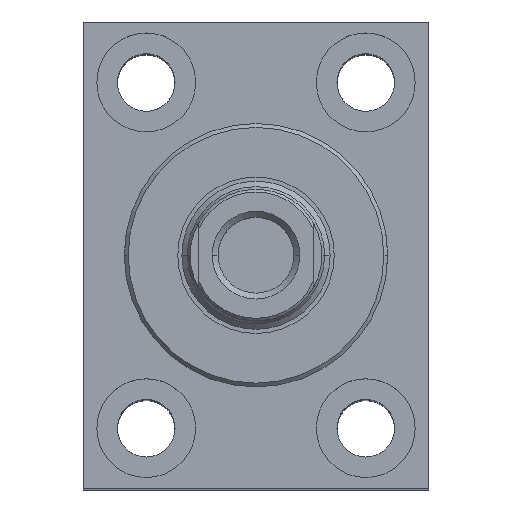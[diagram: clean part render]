
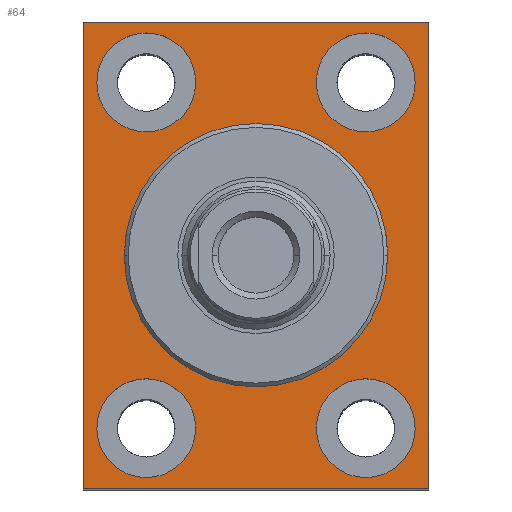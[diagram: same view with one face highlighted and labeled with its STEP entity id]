
A CAD part, top view. The second image highlights one B-rep face of the part: STEP entity #64.
In plain terms, the highlighted planar face has unit normal (0, 0, 1).
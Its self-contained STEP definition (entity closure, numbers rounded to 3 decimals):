
#11 = AXIS2_PLACEMENT_3D ( 'NONE', #3268, #7664, #226 ) ;
#64 = ADVANCED_FACE ( 'NONE', ( #4621, #7730, #331, #1051, #4015, #4657 ), #7109, .T. ) ;
#159 = ORIENTED_EDGE ( 'NONE', *, *, #6897, .T. ) ;
#179 = DIRECTION ( 'NONE',  ( 0., 0., -1. ) ) ;
#226 = DIRECTION ( 'NONE',  ( -1., 0., 0. ) ) ;
#250 = VERTEX_POINT ( 'NONE', #1674 ) ;
#254 = CARTESIAN_POINT ( 'NONE',  ( 0., 0., -10. ) ) ;
#255 = VERTEX_POINT ( 'NONE', #1102 ) ;
#331 = FACE_BOUND ( 'NONE', #974, .T. ) ;
#365 = CIRCLE ( 'NONE', #5877, 9. ) ;
#547 = DIRECTION ( 'NONE',  ( -1., 0., 0. ) ) ;
#551 = EDGE_CURVE ( 'NONE', #5105, #4782, #5187, .T. ) ;
#590 = CIRCLE ( 'NONE', #4926, 24.001 ) ;
#652 = CARTESIAN_POINT ( 'NONE',  ( 20., 31.5, -10. ) ) ;
#689 = CARTESIAN_POINT ( 'NONE',  ( -20., 31.5, -10. ) ) ;
#809 = ORIENTED_EDGE ( 'NONE', *, *, #7204, .T. ) ;
#854 = EDGE_LOOP ( 'NONE', ( #3528, #4538 ) ) ;
#906 = VERTEX_POINT ( 'NONE', #3302 ) ;
#908 = AXIS2_PLACEMENT_3D ( 'NONE', #652, #7257, #6667 ) ;
#974 = EDGE_LOOP ( 'NONE', ( #7054, #5970 ) ) ;
#1051 = FACE_BOUND ( 'NONE', #6623, .T. ) ;
#1100 = ORIENTED_EDGE ( 'NONE', *, *, #1459, .T. ) ;
#1102 = CARTESIAN_POINT ( 'NONE',  ( -24.001, 0., -10. ) ) ;
#1459 = EDGE_CURVE ( 'NONE', #4433, #255, #590, .T. ) ;
#1541 = CIRCLE ( 'NONE', #3838, 24.001 ) ;
#1557 = VECTOR ( 'NONE', #6429, 1000. ) ;
#1645 = AXIS2_PLACEMENT_3D ( 'NONE', #4900, #6038, #547 ) ;
#1650 = CARTESIAN_POINT ( 'NONE',  ( 31.5, 42.5, -10. ) ) ;
#1674 = CARTESIAN_POINT ( 'NONE',  ( -11., -31.5, -10. ) ) ;
#1749 = VERTEX_POINT ( 'NONE', #6057 ) ;
#1809 = EDGE_CURVE ( 'NONE', #1749, #6041, #5331, .T. ) ;
#1997 = CARTESIAN_POINT ( 'NONE',  ( -20., 31.5, -10. ) ) ;
#2009 = VERTEX_POINT ( 'NONE', #4598 ) ;
#2144 = CIRCLE ( 'NONE', #5213, 9. ) ;
#2251 = ORIENTED_EDGE ( 'NONE', *, *, #5848, .T. ) ;
#2291 = CARTESIAN_POINT ( 'NONE',  ( 0., 0., -10. ) ) ;
#2302 = CIRCLE ( 'NONE', #908, 9. ) ;
#2363 = DIRECTION ( 'NONE',  ( -1., 0., 0. ) ) ;
#2385 = CIRCLE ( 'NONE', #6875, 9. ) ;
#2526 = ORIENTED_EDGE ( 'NONE', *, *, #6705, .T. ) ;
#2531 = VECTOR ( 'NONE', #6244, 1000. ) ;
#2533 = EDGE_CURVE ( 'NONE', #906, #5018, #2385, .T. ) ;
#2619 = DIRECTION ( 'NONE',  ( -1., 0., 0. ) ) ;
#2820 = DIRECTION ( 'NONE',  ( 1., 0., 0. ) ) ;
#2855 = EDGE_CURVE ( 'NONE', #4952, #250, #4360, .T. ) ;
#2895 = DIRECTION ( 'NONE',  ( 0., 0., 1. ) ) ;
#2899 = CARTESIAN_POINT ( 'NONE',  ( 31.5, -42.5, -10. ) ) ;
#2965 = VERTEX_POINT ( 'NONE', #2899 ) ;
#3151 = ORIENTED_EDGE ( 'NONE', *, *, #2533, .T. ) ;
#3206 = DIRECTION ( 'NONE',  ( 0., 0., -1. ) ) ;
#3258 = CARTESIAN_POINT ( 'NONE',  ( -31.5, -42.5, -10. ) ) ;
#3268 = CARTESIAN_POINT ( 'NONE',  ( -20., -31.5, -10. ) ) ;
#3296 = EDGE_CURVE ( 'NONE', #4782, #2965, #6342, .T. ) ;
#3302 = CARTESIAN_POINT ( 'NONE',  ( 11., -31.5, -10. ) ) ;
#3351 = CARTESIAN_POINT ( 'NONE',  ( -29., -31.5, -10. ) ) ;
#3365 = CARTESIAN_POINT ( 'NONE',  ( 29., 31.5, -10. ) ) ;
#3483 = DIRECTION ( 'NONE',  ( -1., 0., 0. ) ) ;
#3528 = ORIENTED_EDGE ( 'NONE', *, *, #2855, .T. ) ;
#3815 = CIRCLE ( 'NONE', #1645, 9. ) ;
#3829 = CARTESIAN_POINT ( 'NONE',  ( 31.5, -42.5, -10. ) ) ;
#3838 = AXIS2_PLACEMENT_3D ( 'NONE', #254, #179, #2619 ) ;
#3921 = ORIENTED_EDGE ( 'NONE', *, *, #1809, .T. ) ;
#3935 = EDGE_CURVE ( 'NONE', #2009, #5949, #2302, .T. ) ;
#4015 = FACE_BOUND ( 'NONE', #854, .T. ) ;
#4183 = DIRECTION ( 'NONE',  ( -1., 0., 0. ) ) ;
#4229 = CARTESIAN_POINT ( 'NONE',  ( 31.5, 42.5, -10. ) ) ;
#4240 = CARTESIAN_POINT ( 'NONE',  ( -11., 31.5, -10. ) ) ;
#4360 = CIRCLE ( 'NONE', #11, 9. ) ;
#4390 = EDGE_LOOP ( 'NONE', ( #3921, #159 ) ) ;
#4433 = VERTEX_POINT ( 'NONE', #5521 ) ;
#4492 = DIRECTION ( 'NONE',  ( -1., 0., 0. ) ) ;
#4538 = ORIENTED_EDGE ( 'NONE', *, *, #7557, .T. ) ;
#4598 = CARTESIAN_POINT ( 'NONE',  ( 11., 31.5, -10. ) ) ;
#4621 = FACE_BOUND ( 'NONE', #4759, .T. ) ;
#4657 = FACE_OUTER_BOUND ( 'NONE', #7662, .T. ) ;
#4759 = EDGE_LOOP ( 'NONE', ( #2526, #1100 ) ) ;
#4782 = VERTEX_POINT ( 'NONE', #4820 ) ;
#4786 = CARTESIAN_POINT ( 'NONE',  ( 20., -31.5, -10. ) ) ;
#4820 = CARTESIAN_POINT ( 'NONE',  ( -31.5, -42.5, -10. ) ) ;
#4897 = EDGE_CURVE ( 'NONE', #6748, #5105, #7272, .T. ) ;
#4900 = CARTESIAN_POINT ( 'NONE',  ( -20., -31.5, -10. ) ) ;
#4926 = AXIS2_PLACEMENT_3D ( 'NONE', #5086, #7532, #4492 ) ;
#4952 = VERTEX_POINT ( 'NONE', #3351 ) ;
#4963 = DIRECTION ( 'NONE',  ( 0., 0., -1. ) ) ;
#5018 = VERTEX_POINT ( 'NONE', #6954 ) ;
#5086 = CARTESIAN_POINT ( 'NONE',  ( 0., 0., -10. ) ) ;
#5105 = VERTEX_POINT ( 'NONE', #6439 ) ;
#5121 = CIRCLE ( 'NONE', #7423, 9. ) ;
#5187 = LINE ( 'NONE', #5272, #6644 ) ;
#5195 = AXIS2_PLACEMENT_3D ( 'NONE', #1997, #3206, #7081 ) ;
#5213 = AXIS2_PLACEMENT_3D ( 'NONE', #689, #4963, #2363 ) ;
#5272 = CARTESIAN_POINT ( 'NONE',  ( -31.5, 42.5, -10. ) ) ;
#5331 = CIRCLE ( 'NONE', #5195, 9. ) ;
#5437 = DIRECTION ( 'NONE',  ( 0., 0., -1. ) ) ;
#5505 = CARTESIAN_POINT ( 'NONE',  ( 20., 31.5, -10. ) ) ;
#5521 = CARTESIAN_POINT ( 'NONE',  ( 24.001, 0., -10. ) ) ;
#5712 = DIRECTION ( 'NONE',  ( 0., -1., 0. ) ) ;
#5848 = EDGE_CURVE ( 'NONE', #5018, #906, #365, .T. ) ;
#5849 = CARTESIAN_POINT ( 'NONE',  ( 20., -31.5, -10. ) ) ;
#5875 = AXIS2_PLACEMENT_3D ( 'NONE', #2291, #2895, #2820 ) ;
#5877 = AXIS2_PLACEMENT_3D ( 'NONE', #5849, #7009, #3483 ) ;
#5949 = VERTEX_POINT ( 'NONE', #3365 ) ;
#5970 = ORIENTED_EDGE ( 'NONE', *, *, #6500, .T. ) ;
#6038 = DIRECTION ( 'NONE',  ( 0., 0., -1. ) ) ;
#6041 = VERTEX_POINT ( 'NONE', #4240 ) ;
#6057 = CARTESIAN_POINT ( 'NONE',  ( -29., 31.5, -10. ) ) ;
#6155 = DIRECTION ( 'NONE',  ( 0., 0., -1. ) ) ;
#6172 = VECTOR ( 'NONE', #6682, 1000. ) ;
#6244 = DIRECTION ( 'NONE',  ( 0., 1., 0. ) ) ;
#6342 = LINE ( 'NONE', #3258, #1557 ) ;
#6358 = LINE ( 'NONE', #3829, #2531 ) ;
#6429 = DIRECTION ( 'NONE',  ( 1., 0., 0. ) ) ;
#6439 = CARTESIAN_POINT ( 'NONE',  ( -31.5, 42.5, -10. ) ) ;
#6500 = EDGE_CURVE ( 'NONE', #5949, #2009, #5121, .T. ) ;
#6623 = EDGE_LOOP ( 'NONE', ( #3151, #2251 ) ) ;
#6644 = VECTOR ( 'NONE', #5712, 1000. ) ;
#6667 = DIRECTION ( 'NONE',  ( -1., 0., 0. ) ) ;
#6682 = DIRECTION ( 'NONE',  ( -1., 0., 0. ) ) ;
#6705 = EDGE_CURVE ( 'NONE', #255, #4433, #1541, .T. ) ;
#6748 = VERTEX_POINT ( 'NONE', #1650 ) ;
#6875 = AXIS2_PLACEMENT_3D ( 'NONE', #4786, #5437, #4183 ) ;
#6897 = EDGE_CURVE ( 'NONE', #6041, #1749, #2144, .T. ) ;
#6949 = ORIENTED_EDGE ( 'NONE', *, *, #4897, .T. ) ;
#6954 = CARTESIAN_POINT ( 'NONE',  ( 29., -31.5, -10. ) ) ;
#6974 = ORIENTED_EDGE ( 'NONE', *, *, #3296, .T. ) ;
#7009 = DIRECTION ( 'NONE',  ( 0., 0., -1. ) ) ;
#7054 = ORIENTED_EDGE ( 'NONE', *, *, #3935, .T. ) ;
#7059 = ORIENTED_EDGE ( 'NONE', *, *, #551, .T. ) ;
#7081 = DIRECTION ( 'NONE',  ( -1., 0., 0. ) ) ;
#7109 = PLANE ( 'NONE',  #5875 ) ;
#7204 = EDGE_CURVE ( 'NONE', #2965, #6748, #6358, .T. ) ;
#7257 = DIRECTION ( 'NONE',  ( 0., 0., -1. ) ) ;
#7272 = LINE ( 'NONE', #4229, #6172 ) ;
#7307 = DIRECTION ( 'NONE',  ( -1., 0., 0. ) ) ;
#7423 = AXIS2_PLACEMENT_3D ( 'NONE', #5505, #6155, #7307 ) ;
#7532 = DIRECTION ( 'NONE',  ( 0., 0., -1. ) ) ;
#7557 = EDGE_CURVE ( 'NONE', #250, #4952, #3815, .T. ) ;
#7662 = EDGE_LOOP ( 'NONE', ( #7059, #6974, #809, #6949 ) ) ;
#7664 = DIRECTION ( 'NONE',  ( 0., 0., -1. ) ) ;
#7730 = FACE_BOUND ( 'NONE', #4390, .T. ) ;
